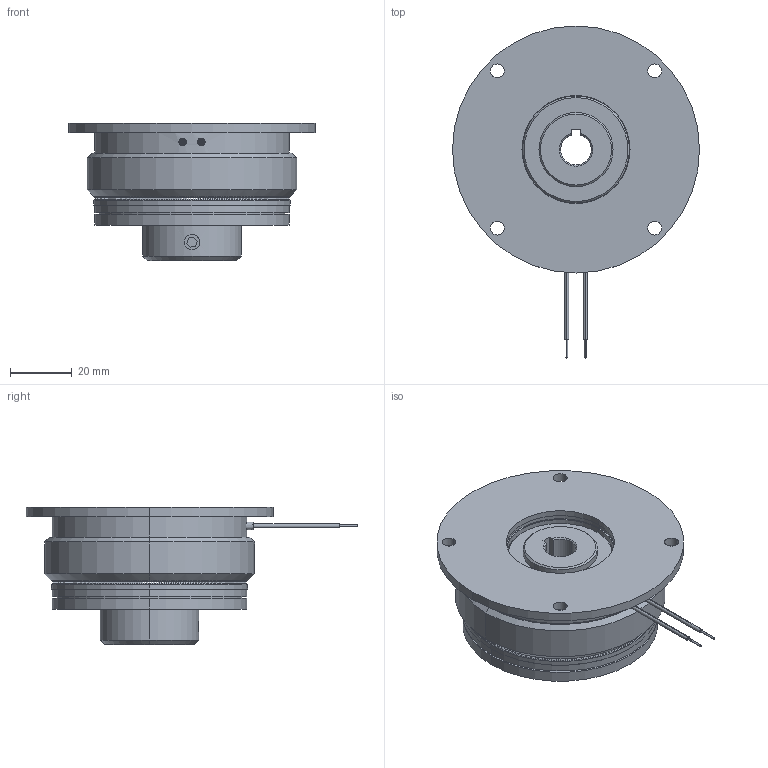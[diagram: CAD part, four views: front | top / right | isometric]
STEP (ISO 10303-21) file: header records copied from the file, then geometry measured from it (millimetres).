
FILE_DESCRIPTION (( 'STEP AP214' ), '1' );
FILE_NAME ('dr_bk_0607-130_mu.STEP', '2021-11-19T07:25:05', ( '' ), ( '' ), 'SwSTEP 2.0', 'SolidWorks 2019', '' );
FILE_SCHEMA (( 'AUTOMOTIVE_DESIGN' ));
Length unit declared in the file: millimetre
Products named in the file (11): 10068789_000_Einbaul„nge 2,7mm; 10069173_000; 10068785_000; 10069196_000_Kundenmodell; 10068788_000; 10069198_000_gedreht nach Arbeitsanweisung 07.001-4-0327; 10069197_000_Kundenmodell; dr_bk_0607-130_mu; 10068789_000_Einbaul„nge 2,95mm; 10068794_000; 10068793_000_M6x10 ISO 4026
Assembly tree (19 placements, depth 3):
  dr_bk_0607-130_mu
    10069173_000
    10069196_000_Kundenmodell
    10069197_000_Kundenmodell
      10068794_000
      10069198_000_gedreht nach Arbeitsanweisung 07.001-4-0327
      10068785_000
      10068789_000_Einbaul„nge 2,95mm  x3
      10068788_000  x6
      10068789_000_Einbaul„nge 2,7mm  x3
      10068793_000_M6x10 ISO 4026
Bounding box: 80 x 107.5 x 44.45 mm (x, y, z)
Volume: 104940.3 mm3; surface area: 48817.2 mm2
Topology: 20 solids, 20 shells, 2766 faces, 8006 edges, 5284 vertices
Faces by surface type: plane 2102, cylinder 522, cone 110, torus 20, sphere 12
Entity records: 107285 total; most frequent: CARTESIAN_POINT 40399, ORIENTED_EDGE 15556, DIRECTION 11448, EDGE_CURVE 7778, VERTEX_POINT 5156, AXIS2_PLACEMENT_3D 4411, B_SPLINE_CURVE_WITH_KNOTS 3424, EDGE_LOOP 2738
